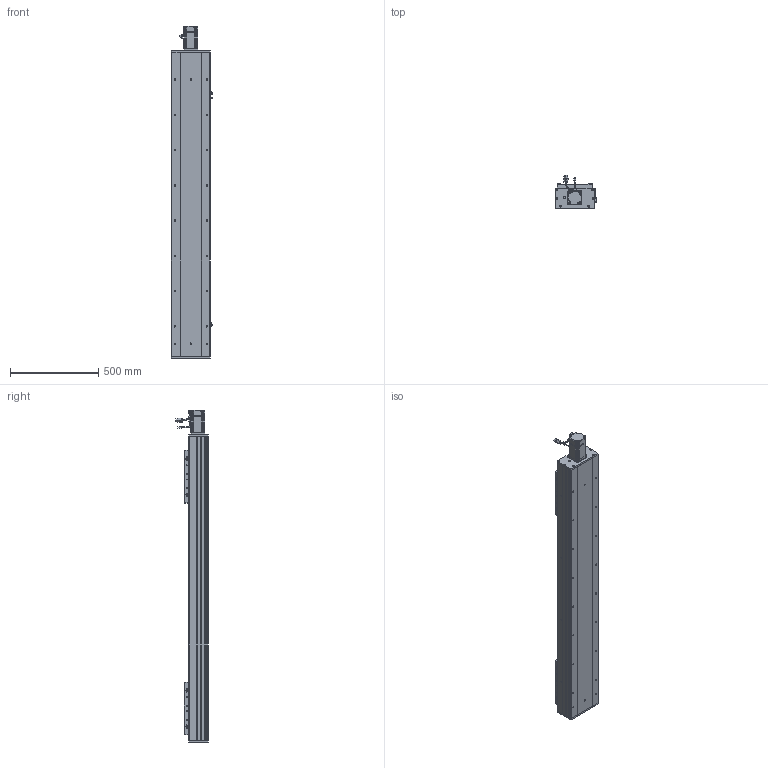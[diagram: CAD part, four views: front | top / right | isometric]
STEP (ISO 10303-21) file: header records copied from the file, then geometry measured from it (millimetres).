
FILE_DESCRIPTION (( 'STEP AP203' ), '1' );
FILE_NAME ('RY220F-L2525-300-MK.SLDASM_1300.step', '2022-07-04T01:04:02', ( '' ), ( '' ), 'SwSTEP 2.0', 'SolidWorks 2016', '' );
FILE_SCHEMA (( 'CONFIG_CONTROL_DESIGN' ));
Length unit declared in the file: millimetre
Products named in the file (15): RY220F-滅鳥奻裔; RY220F綴裔啣; 覜茼ん672; RY220F-詩湍揤踡輸; RY220Fヶ裔啣; RY220电机支撑座FK20（PCD90M6）; RY220F-奻裔啣-300_1300; 滅袉蝶18-24; RY220F臏賑釱25-32佪裝; 滅袉蝶18-20; RY220F-672覜茼んえ; RY220F-L2525-300-MK.SLDASM_1300; RY220F-祥凄詩湍-MK-300_1300; RY220F菁釱MK-300_1300; 怢湛750W_ECMA-CX0807ES
Assembly tree (23 placements, depth 2):
  RY220F-L2525-300-MK.SLDASM_1300
    RY220F菁釱MK-300_1300
    RY220电机支撑座FK20（PCD90M6）
    RY220F-奻裔啣-300_1300  x2
    怢湛750W_ECMA-CX0807ES
    RY220F臏賑釱25-32佪裝  x2
    RY220F-滅鳥奻裔  x2
    滅袉蝶18-20
    滅袉蝶18-24  x3
    RY220Fヶ裔啣
    RY220F綴裔啣
    RY220F-祥凄詩湍-MK-300_1300
    RY220F-詩湍揤踡輸  x2
    覜茼ん672  x3
    RY220F-672覜茼んえ  x2
Bounding box: 233.7 x 187.27 x 1884.3 mm (x, y, z)
Volume: 16826842.3 mm3; surface area: 4235374 mm2
Topology: 24 solids, 24 shells, 2798 faces, 7658 edges, 4732 vertices
Faces by surface type: cylinder 1270, plane 1030, cone 435, bspline 37, sphere 16, torus 10
Entity records: 69958 total; most frequent: CARTESIAN_POINT 18648, ORIENTED_EDGE 10378, DIRECTION 10146, EDGE_CURVE 5189, AXIS2_PLACEMENT_3D 3623, VERTEX_POINT 3372, VECTOR 2900, LINE 2900
